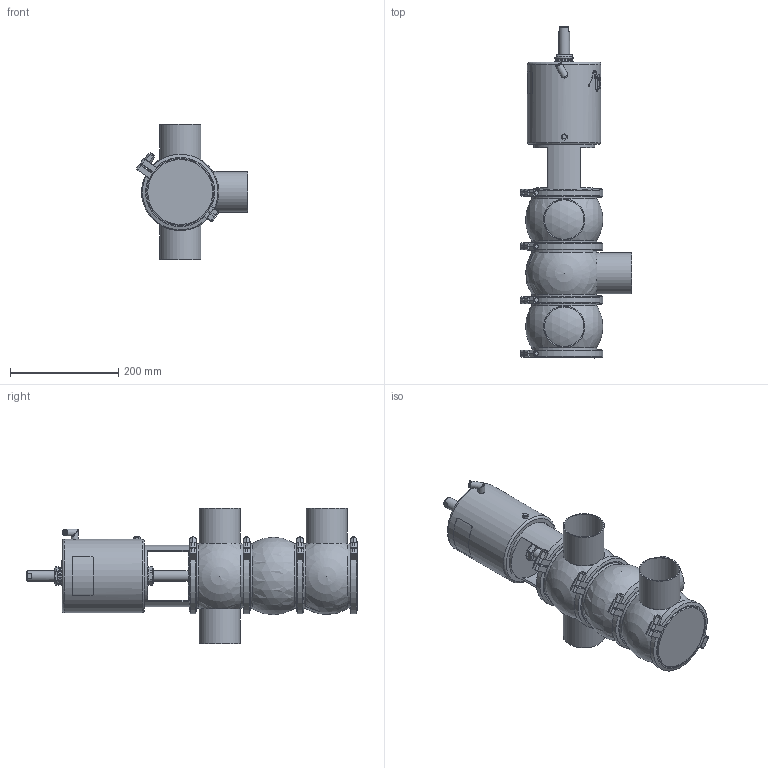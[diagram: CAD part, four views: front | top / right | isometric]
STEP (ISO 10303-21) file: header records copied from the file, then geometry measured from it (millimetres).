
FILE_DESCRIPTION (( 'STEP AP214' ), '1' );
FILE_NAME ('INNOVA L P W OD 3 T3 AS NC_10.241.16.0016.STEP', '2024-08-07T07:42:46', ( '' ), ( '' ), 'SwSTEP 2.0', 'SolidWorks 2023', '' );
FILE_SCHEMA (( 'AUTOMOTIVE_DESIGN' ));
Length unit declared in the file: millimetre
Products named in the file (7): INNOVA L P W OD 3 T3 AS NC_10.241.16.0016; 10.240.15.0010_DN 080; 10.241.15.0001_DIN 080; 10.240.15.0014_T3 AS P180; 10.240.15.0007_OD 3"; 10.240.15.0006_OD 3"; 10.240.15.0001_DN 080
Assembly tree (10 placements, depth 2):
  INNOVA L P W OD 3 T3 AS NC_10.241.16.0016
    10.240.15.0007_OD 3"
    10.240.15.0006_OD 3"  x2
    10.240.15.0010_DN 080
    10.240.15.0014_T3 AS P180
    10.240.15.0001_DN 080  x4
    10.241.15.0001_DIN 080
Bounding box: 206.43 x 613.63 x 250 mm (x, y, z)
Volume: 6954857.4 mm3; surface area: 640236.9 mm2
Topology: 11 solids, 11 shells, 536 faces, 1408 edges, 917 vertices
Faces by surface type: plane 261, cylinder 138, bspline 80, cone 46, sphere 7, torus 4
Full cylindrical faces by diameter (mm): 6.15 x1, 8 x9, 8.5 x1, 10.5 x1, 12.5 x3, 16 x1, 20 x2, 31 x1, 34.5 x2, 36.5 x1, 72.9 x4, 76.2 x4, 113 x1, 120 x7, 132 x8, 136 x1
Entity records: 20751 total; most frequent: CARTESIAN_POINT 11322, ORIENTED_EDGE 1624, DIRECTION 1275, EDGE_CURVE 812, VERTEX_POINT 563, AXIS2_PLACEMENT_3D 493, EDGE_LOOP 431, FACE_OUTER_BOUND 386
